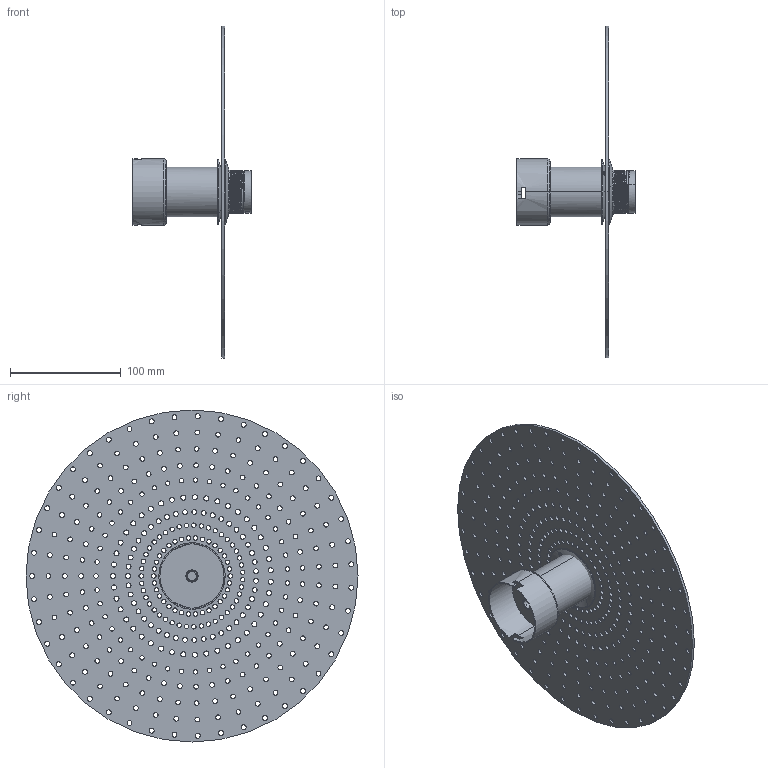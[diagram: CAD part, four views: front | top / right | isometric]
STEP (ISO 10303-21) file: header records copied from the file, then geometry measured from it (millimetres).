
FILE_DESCRIPTION (( 'STEP AP214' ), '1' );
FILE_NAME ('A1225.STEP', '2026-06-09T10:59:39', ( '' ), ( '' ), 'SwSTEP 2.0', 'SolidWorks 2023', '' );
FILE_SCHEMA (( 'AUTOMOTIVE_DESIGN' ));
Length unit declared in the file: inch
Products named in the file (1): A1225
Bounding box: 106.74 x 299.97 x 299.97 mm (x, y, z)
Volume: 220500.3 mm3; surface area: 196351.7 mm2
Topology: 4 solids, 4 shells, 985 faces, 2909 edges, 1933 vertices
Faces by surface type: cylinder 758, bspline 223, plane 4
Entity records: 59410 total; most frequent: CARTESIAN_POINT 32275, ORIENTED_EDGE 5816, DIRECTION 5334, EDGE_CURVE 2908, AXIS2_PLACEMENT_3D 2288, VERTEX_POINT 1933, EDGE_LOOP 1753, CIRCLE 1525
